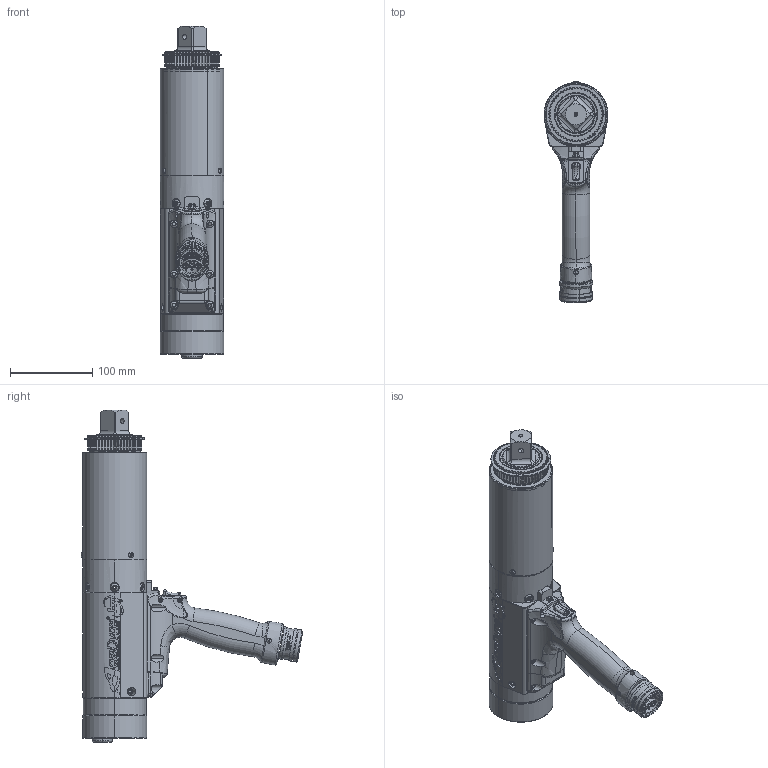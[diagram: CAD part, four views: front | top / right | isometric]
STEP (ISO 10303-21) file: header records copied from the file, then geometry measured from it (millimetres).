
FILE_DESCRIPTION (( 'STEP AP214' ), '1' );
FILE_NAME ('AEP4B772500BDL.STEP', '2022-07-23T00:06:32', ( '' ), ( '' ), 'SwSTEP 2.0', 'SolidWorks 2022', '' );
FILE_SCHEMA (( 'AUTOMOTIVE_DESIGN' ));
Length unit declared in the file: inch
Products named in the file (1): AEP4B772500BDL
Bounding box: 77.47 x 268.69 x 402.69 mm (x, y, z)
Surface area: 203925.8 mm2 (no closed solid volume)
Topology: 0 solids, 83 shells, 1292 faces, 4981 edges, 3588 vertices
Faces by surface type: cylinder 427, plane 347, bspline 210, cone 150, torus 145, sphere 13
Entity records: 125499 total; most frequent: CARTESIAN_POINT 71312, ORIENTED_EDGE 7727, DIRECTION 6764, EDGE_CURVE 4977, VERTEX_POINT 3588, AXIS2_PLACEMENT_3D 2535, LINE 1694, VECTOR 1694
